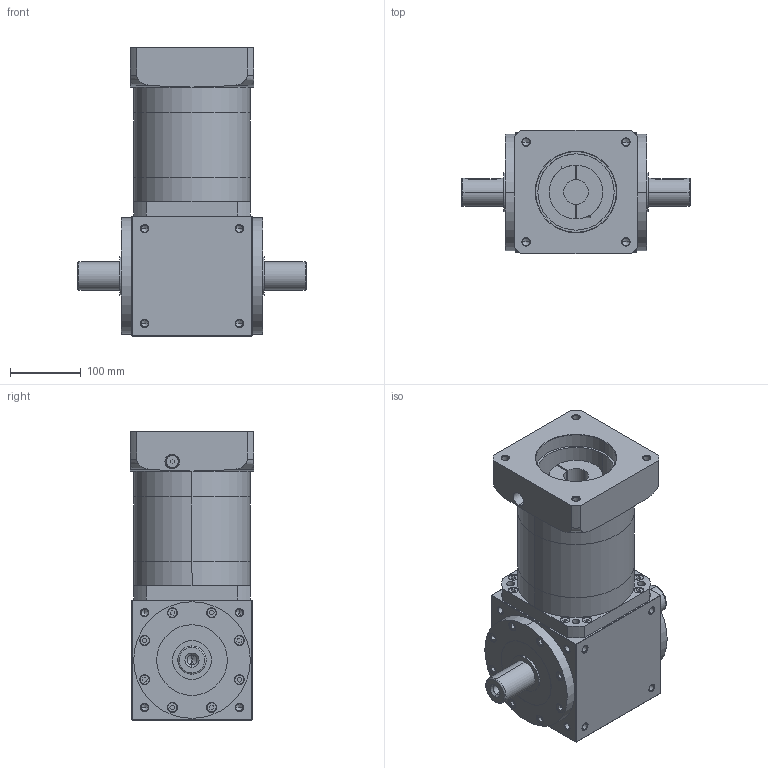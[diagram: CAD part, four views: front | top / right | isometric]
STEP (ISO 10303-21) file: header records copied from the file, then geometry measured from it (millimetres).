
FILE_DESCRIPTION (( 'STEP AP203' ), '1' );
FILE_NAME ('AT170-FL-L3-35-114.3-200M12.STEP', '2026-01-14T08:27:06', ( 'Windows User' ), ( 'P R C' ), 'SwSTEP 2.0', 'SolidWorks 2016', '' );
FILE_SCHEMA (( 'CONFIG_CONTROL_DESIGN' ));
Length unit declared in the file: millimetre
Products named in the file (5): AT170转角箱体-双轴输出; AT170蛌倰怀堤楊擘; AT170输入法兰-A-35-80-114.3-M12-200; AT170内齿圈108-2; AT170-FL-L3-35-114.3-200M12
Assembly tree (4 placements, depth 2):
  AT170-FL-L3-35-114.3-200M12
    AT170转角箱体-双轴输出
    AT170蛌倰怀堤楊擘
    AT170输入法兰-A-35-80-114.3-M12-200
    AT170内齿圈108-2
Bounding box: 324 x 175 x 408 mm (x, y, z)
Volume: 8586893.7 mm3; surface area: 695843 mm2
Topology: 4 solids, 20 shells, 1594 faces, 4059 edges, 2544 vertices
Faces by surface type: plane 804, cylinder 354, cone 262, bspline 174
Entity records: 55516 total; most frequent: CARTESIAN_POINT 18190, ORIENTED_EDGE 7870, DIRECTION 7029, EDGE_CURVE 3935, VECTOR 2587, LINE 2587, VERTEX_POINT 2544, AXIS2_PLACEMENT_3D 2221
